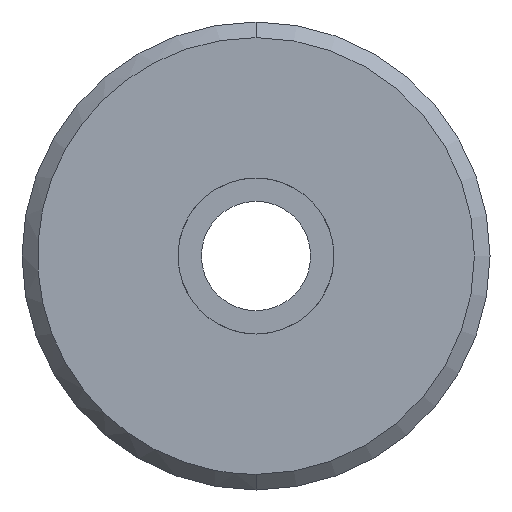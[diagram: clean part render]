
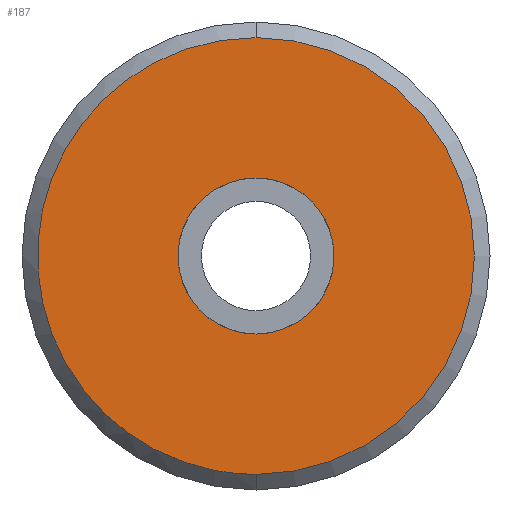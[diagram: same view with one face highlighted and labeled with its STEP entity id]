
A CAD part, front view. The second image highlights one B-rep face of the part: STEP entity #187.
In plain terms, the highlighted planar face has unit normal (0, -1, 0).
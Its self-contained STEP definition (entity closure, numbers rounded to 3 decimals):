
#57=CARTESIAN_POINT('Axis2P3D Location',(0.,0.,0.)) ;
#61=CARTESIAN_POINT('Vertex',(0.,0.,-28.)) ;
#63=CARTESIAN_POINT('Vertex',(0.,0.,28.)) ;
#92=CARTESIAN_POINT('Axis2P3D Location',(0.,0.,0.)) ;
#98=CARTESIAN_POINT('Control Point',(0.,0.,28.)) ;
#99=CARTESIAN_POINT('Control Point',(-2.592,0.,28.)) ;
#100=CARTESIAN_POINT('Control Point',(-5.185,0.,27.7)) ;
#101=CARTESIAN_POINT('Control Point',(-7.731,0.,27.1)) ;
#102=CARTESIAN_POINT('Control Point',(-12.637,0.,25.322)) ;
#103=CARTESIAN_POINT('Control Point',(-17.008,0.,22.47)) ;
#104=CARTESIAN_POINT('Control Point',(-19.019,0.,20.796)) ;
#105=CARTESIAN_POINT('Control Point',(-22.615,0.,17.013)) ;
#106=CARTESIAN_POINT('Control Point',(-25.252,0.,12.51)) ;
#107=CARTESIAN_POINT('Control Point',(-26.303,0.,10.114)) ;
#108=CARTESIAN_POINT('Control Point',(-27.832,0.,5.124)) ;
#109=CARTESIAN_POINT('Control Point',(-28.181,0.,-0.083)) ;
#110=CARTESIAN_POINT('Control Point',(-28.052,0.,-2.696)) ;
#111=CARTESIAN_POINT('Control Point',(-27.191,0.,-7.844)) ;
#112=CARTESIAN_POINT('Control Point',(-25.178,0.,-12.659)) ;
#113=CARTESIAN_POINT('Control Point',(-23.896,0.,-14.939)) ;
#114=CARTESIAN_POINT('Control Point',(-20.827,0.,-19.161)) ;
#115=CARTESIAN_POINT('Control Point',(-16.875,0.,-22.57)) ;
#116=CARTESIAN_POINT('Control Point',(-14.71,0.,-24.037)) ;
#117=CARTESIAN_POINT('Control Point',(-10.573,0.,-26.188)) ;
#118=CARTESIAN_POINT('Control Point',(-6.095,0.,-27.443)) ;
#119=CARTESIAN_POINT('Control Point',(-4.078,0.,-27.814)) ;
#120=CARTESIAN_POINT('Control Point',(-2.039,0.,-28.)) ;
#121=CARTESIAN_POINT('Control Point',(0.,0.,-28.)) ;
#128=CARTESIAN_POINT('Control Point',(0.,0.,-10.)) ;
#129=CARTESIAN_POINT('Control Point',(0.93,0.,-10.)) ;
#130=CARTESIAN_POINT('Control Point',(1.859,0.,-9.892)) ;
#131=CARTESIAN_POINT('Control Point',(2.772,0.,-9.676)) ;
#132=CARTESIAN_POINT('Control Point',(4.53,0.,-9.036)) ;
#133=CARTESIAN_POINT('Control Point',(6.095,0.,-8.01)) ;
#134=CARTESIAN_POINT('Control Point',(6.815,0.,-7.407)) ;
#135=CARTESIAN_POINT('Control Point',(8.1,0.,-6.047)) ;
#136=CARTESIAN_POINT('Control Point',(9.039,0.,-4.428)) ;
#137=CARTESIAN_POINT('Control Point',(9.412,0.,-3.567)) ;
#138=CARTESIAN_POINT('Control Point',(9.951,0.,-1.775)) ;
#139=CARTESIAN_POINT('Control Point',(10.065,0.,0.093)) ;
#140=CARTESIAN_POINT('Control Point',(10.012,0.,1.03)) ;
#141=CARTESIAN_POINT('Control Point',(9.691,0.,2.873)) ;
#142=CARTESIAN_POINT('Control Point',(8.955,0.,4.594)) ;
#143=CARTESIAN_POINT('Control Point',(8.489,0.,5.408)) ;
#144=CARTESIAN_POINT('Control Point',(7.375,0.,6.912)) ;
#145=CARTESIAN_POINT('Control Point',(5.946,0.,8.121)) ;
#146=CARTESIAN_POINT('Control Point',(5.165,0.,8.639)) ;
#147=CARTESIAN_POINT('Control Point',(3.696,0.,9.383)) ;
#148=CARTESIAN_POINT('Control Point',(2.111,0.,9.813)) ;
#149=CARTESIAN_POINT('Control Point',(1.412,0.,9.938)) ;
#150=CARTESIAN_POINT('Control Point',(0.706,0.,10.)) ;
#151=CARTESIAN_POINT('Control Point',(0.,0.,10.)) ;
#152=CARTESIAN_POINT('Vertex',(0.,0.,-10.)) ;
#154=CARTESIAN_POINT('Vertex',(0.,0.,10.)) ;
#158=CARTESIAN_POINT('Control Point',(0.,0.,10.)) ;
#159=CARTESIAN_POINT('Control Point',(-0.93,0.,10.)) ;
#160=CARTESIAN_POINT('Control Point',(-1.859,0.,9.892)) ;
#161=CARTESIAN_POINT('Control Point',(-2.772,0.,9.676)) ;
#162=CARTESIAN_POINT('Control Point',(-4.53,0.,9.036)) ;
#163=CARTESIAN_POINT('Control Point',(-6.095,0.,8.01)) ;
#164=CARTESIAN_POINT('Control Point',(-6.815,0.,7.407)) ;
#165=CARTESIAN_POINT('Control Point',(-8.1,0.,6.047)) ;
#166=CARTESIAN_POINT('Control Point',(-9.039,0.,4.428)) ;
#167=CARTESIAN_POINT('Control Point',(-9.412,0.,3.567)) ;
#168=CARTESIAN_POINT('Control Point',(-9.951,0.,1.775)) ;
#169=CARTESIAN_POINT('Control Point',(-10.065,0.,-0.093)) ;
#170=CARTESIAN_POINT('Control Point',(-10.012,0.,-1.03)) ;
#171=CARTESIAN_POINT('Control Point',(-9.691,0.,-2.873)) ;
#172=CARTESIAN_POINT('Control Point',(-8.955,0.,-4.594)) ;
#173=CARTESIAN_POINT('Control Point',(-8.489,0.,-5.408)) ;
#174=CARTESIAN_POINT('Control Point',(-7.375,0.,-6.912)) ;
#175=CARTESIAN_POINT('Control Point',(-5.946,0.,-8.121)) ;
#176=CARTESIAN_POINT('Control Point',(-5.165,0.,-8.639)) ;
#177=CARTESIAN_POINT('Control Point',(-3.696,0.,-9.383)) ;
#178=CARTESIAN_POINT('Control Point',(-2.111,0.,-9.813)) ;
#179=CARTESIAN_POINT('Control Point',(-1.412,0.,-9.938)) ;
#180=CARTESIAN_POINT('Control Point',(-0.706,0.,-10.)) ;
#181=CARTESIAN_POINT('Control Point',(0.,0.,-10.)) ;
#58=DIRECTION('Axis2P3D Direction',(-0.,1.,0.)) ;
#93=DIRECTION('Axis2P3D Direction',(0.,1.,0.)) ;
#94=DIRECTION('Axis2P3D XDirection',(0.,-0.,1.)) ;
#59=AXIS2_PLACEMENT_3D('Circle Axis2P3D',#57,#58,$) ;
#95=AXIS2_PLACEMENT_3D('Plane Axis2P3D',#92,#93,#94) ;
#124=ORIENTED_EDGE('',*,*,#122,.T.) ;
#125=ORIENTED_EDGE('',*,*,#65,.T.) ;
#184=ORIENTED_EDGE('',*,*,#156,.F.) ;
#185=ORIENTED_EDGE('',*,*,#182,.F.) ;
#186=FACE_BOUND('',#183,.T.) ;
#187=ADVANCED_FACE('Smusso 2x45\X2\00B0\X0\',(#126,#186),#96,.F.) ;
#97=B_SPLINE_CURVE_WITH_KNOTS('',5,(#98,#99,#100,#101,#102,#103,#104,#105,#106,#107,#108,#109,#110,#111,#112,#113,#114,#115,#116,#117,#118,#119,#120,#121),.UNSPECIFIED.,.F.,.U.,(6,3,3,3,3,3,3,6),(0.,18.33,36.66,54.99,73.321,91.651,109.981,124.4),.UNSPECIFIED.) ;
#127=B_SPLINE_CURVE_WITH_KNOTS('',5,(#128,#129,#130,#131,#132,#133,#134,#135,#136,#137,#138,#139,#140,#141,#142,#143,#144,#145,#146,#147,#148,#149,#150,#151),.UNSPECIFIED.,.F.,.U.,(6,3,3,3,3,3,3,6),(0.,6.573,13.145,19.718,26.29,32.863,39.436,44.428),.UNSPECIFIED.) ;
#157=B_SPLINE_CURVE_WITH_KNOTS('',5,(#158,#159,#160,#161,#162,#163,#164,#165,#166,#167,#168,#169,#170,#171,#172,#173,#174,#175,#176,#177,#178,#179,#180,#181),.UNSPECIFIED.,.F.,.U.,(6,3,3,3,3,3,3,6),(0.,6.573,13.145,19.718,26.29,32.863,39.436,44.428),.UNSPECIFIED.) ;
#60=CIRCLE('generated circle',#59,28.) ;
#65=EDGE_CURVE('',#62,#64,#60,.F.) ;
#122=EDGE_CURVE('',#64,#62,#97,.T.) ;
#156=EDGE_CURVE('',#153,#155,#127,.T.) ;
#182=EDGE_CURVE('',#155,#153,#157,.T.) ;
#123=EDGE_LOOP('',(#124,#125)) ;
#183=EDGE_LOOP('',(#184,#185)) ;
#126=FACE_OUTER_BOUND('',#123,.T.) ;
#96=PLANE('Plane',#95) ;
#62=VERTEX_POINT('',#61) ;
#64=VERTEX_POINT('',#63) ;
#153=VERTEX_POINT('',#152) ;
#155=VERTEX_POINT('',#154) ;
